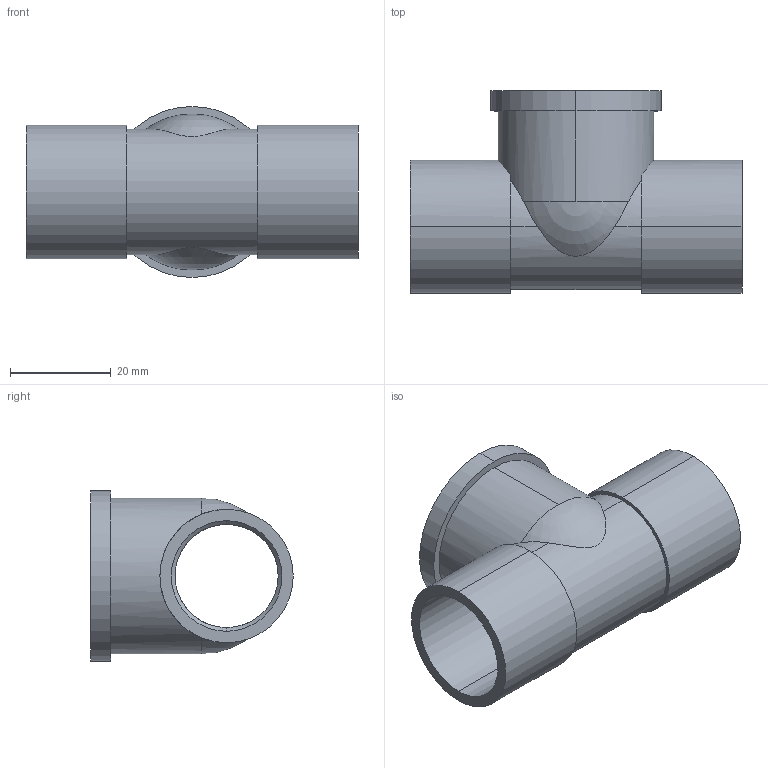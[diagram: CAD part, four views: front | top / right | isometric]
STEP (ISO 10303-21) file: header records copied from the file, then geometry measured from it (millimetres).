
FILE_DESCRIPTION (( 'STEP AP203' ), '1' );
FILE_NAME ('22x34.STEP', '2014-08-27T00:17:57', ( 'Administrators' ), ( 'JUJUMAO' ), 'SwSTEP 2.0', 'SolidWorks 2008', '' );
FILE_SCHEMA (( 'CONFIG_CONTROL_DESIGN' ));
Length unit declared in the file: millimetre
Products named in the file (1): 22x34
Bounding box: 66 x 40.25 x 34 mm (x, y, z)
Volume: 15048.9 mm3; surface area: 13900.4 mm2
Topology: 1 solids, 1 shells, 60 faces, 168 edges, 107 vertices
Faces by surface type: cylinder 40, cone 7, plane 7, sphere 4, bspline 2
Entity records: 3344 total; most frequent: CARTESIAN_POINT 1880, ORIENTED_EDGE 324, DIRECTION 262, EDGE_CURVE 162, AXIS2_PLACEMENT_3D 106, VERTEX_POINT 105, EDGE_LOOP 65, ADVANCED_FACE 60
